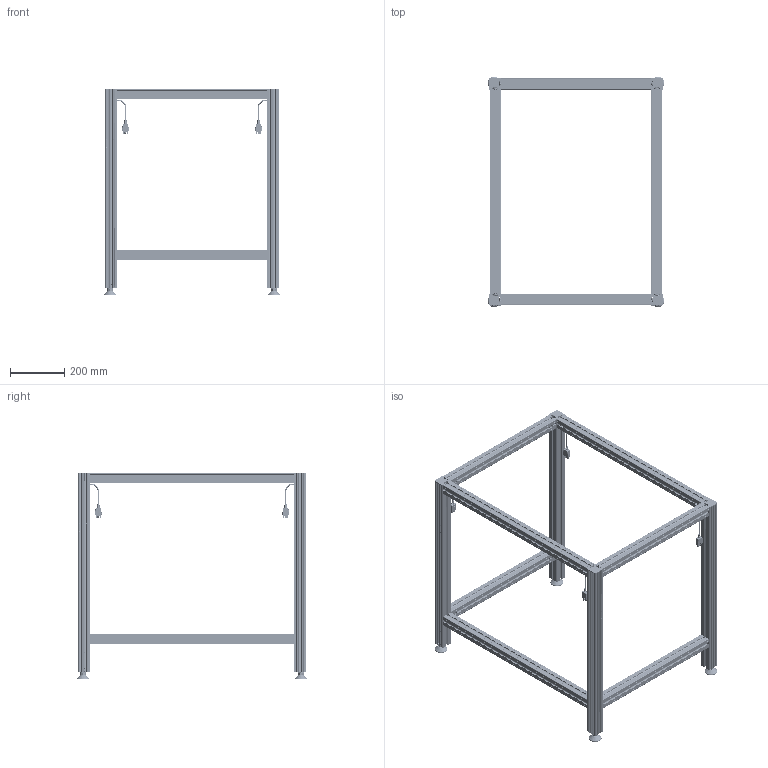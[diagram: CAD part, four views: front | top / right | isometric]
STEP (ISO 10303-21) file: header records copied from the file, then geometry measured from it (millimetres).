
FILE_DESCRIPTION(/* description */ ('Unknown'),/* implementation_level */ '2;1');
FILE_NAME(/* name */ 'Untergestell SQ.3 4340 795 XX XX_00-Eingefahren',/* time_stamp */ '2022-02-04T13:25:15+01:00',/* author */ ('Unknown'),/* organization */ ('Unknown'),/* preprocessor_version */ 'ST-DEVELOPER v18.1',/* originating_system */ 'Solid Edge',/* authorisation */ 'Unknown');
FILE_SCHEMA (('AUTOMOTIVE_DESIGN {1 0 10303 214 3 1 1}'));
Products named in the file (21): Untergestell SQ.3 4340 795 XX XX; 907.02004_oa_0; 142.00014; 119.00501; 122.00005; 142.00020; 123.00111; 125.00051; 128.00040; Kabel Molex; 907.02004_oa_1; 115.00100; 119.00190; 142.00210; 113.00006; 113.00006-ohne Mutter; Mutter M10; 907.02004_oa_2; 907.02004_oa_3; 115.00101; 119.00191
Assembly tree (79 placements, depth 3):
  Untergestell SQ.3 4340 795 XX XX
    907.02004_oa_0
      142.00014  x4
      119.00501
      122.00005
      142.00020  x4
      123.00111
      125.00051
      128.00040
      Kabel Molex
    907.02004_oa_1
      142.00014  x4
      119.00501
      122.00005
      142.00020  x4
      123.00111
      125.00051
      128.00040
      Kabel Molex
    115.00100  x4
      119.00190
      142.00210
    113.00006  x4
      113.00006-ohne Mutter
      Mutter M10
    907.02004_oa_2
      142.00014  x4
      119.00501
      122.00005
      142.00020  x4
      123.00111
      125.00051
      128.00040
      Kabel Molex
    907.02004_oa_3
      142.00014  x4
      119.00501
      122.00005
      142.00020  x4
      123.00111
      125.00051
      128.00040
      Kabel Molex
    115.00101  x3
      119.00191
      142.00210
Bounding box: 651 x 851 x 763 mm (x, y, z)
Volume: 5886873.8 mm3; surface area: 4276789.5 mm2
Topology: 99 solids, 99 shells, 13892 faces, 39146 edges, 25572 vertices
Faces by surface type: plane 7616, cylinder 4786, bspline 700, cone 310, torus 306, sphere 174
Full cylindrical faces by diameter (mm): 2.5 x52, 3 x16, 4 x48, 5 x40, 6.647 x4, 7.8 x14, 8.376 x12, 9.5 x4, 10 x4, 11.3 x14, 11.5 x14, 12 x14, 12.2 x14, 13.5 x14, 15 x4, 17.3 x4, 18 x28, 18.1 x14, 19 x8, 20.8 x12, 21 x8, 25 x12, 29 x4, 30 x8, 35 x4, 39 x4, 47 x4
Entity records: 120083 total; most frequent: CARTESIAN_POINT 27187, ORIENTED_EDGE 19200, DIRECTION 17815, EDGE_CURVE 9600, VERTEX_POINT 6349, AXIS2_PLACEMENT_3D 5949, LINE 5917, VECTOR 5917
